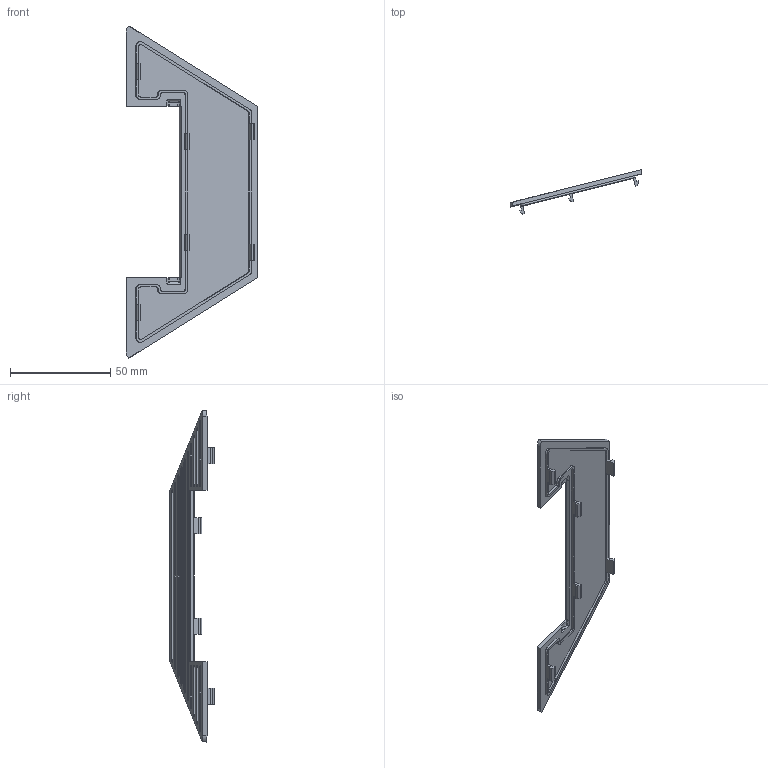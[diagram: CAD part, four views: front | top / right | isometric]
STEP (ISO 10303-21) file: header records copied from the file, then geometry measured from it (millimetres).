
FILE_DESCRIPTION((''),'2;1');
FILE_NAME('TOP_ZSJ','2024-12-18T',('18137'),(''),'CREO PARAMETRIC BY PTC INC, 2016050','CREO PARAMETRIC BY PTC INC, 2016050','');
FILE_SCHEMA(('CONFIG_CONTROL_DESIGN'));
Length unit declared in the file: millimetre
Products named in the file (1): TOP_ZSJ
Bounding box: 65.65 x 22.13 x 165.5 mm (x, y, z)
Volume: 11021 mm3; surface area: 15827.2 mm2
Topology: 1 solids, 1 shells, 252 faces, 641 edges, 406 vertices
Faces by surface type: plane 128, cylinder 64, bspline 60
Entity records: 12679 total; most frequent: CARTESIAN_POINT 6887, ORIENTED_EDGE 1282, DIRECTION 1039, EDGE_CURVE 641, VECTOR 423, LINE 423, VERTEX_POINT 406, AXIS2_PLACEMENT_3D 308
